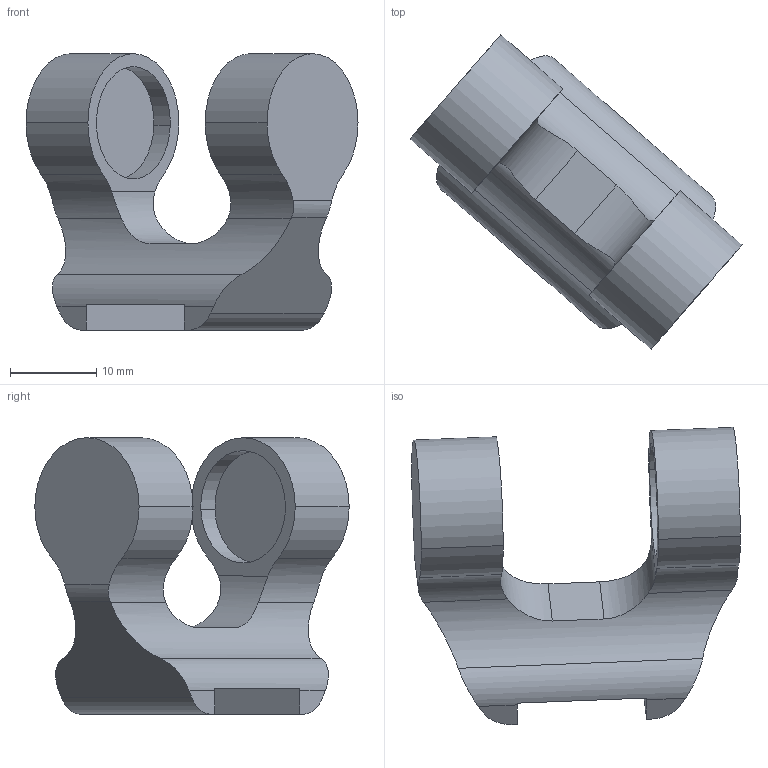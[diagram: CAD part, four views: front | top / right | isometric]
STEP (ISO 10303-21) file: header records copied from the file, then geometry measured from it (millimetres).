
FILE_DESCRIPTION (( 'STEP AP214' ), '1' );
FILE_NAME ('IRB365_1.5-1300_OmniCore_rev00_UNIVERSAL_JOINT_3_CAD.step', '2025-09-09T11:52:39', ( '' ), ( '' ), 'SwSTEP 2.0', 'SolidWorks 2024', '' );
FILE_SCHEMA (( 'AUTOMOTIVE_DESIGN' ));
Length unit declared in the file: millimetre
Products named in the file (1): IRB365_1.5-1300_OmniCore_rev00_UNIVERSAL_JOINT_3_CAD
Bounding box: 38.41 x 36.37 x 32 mm (x, y, z)
Volume: 7192.7 mm3; surface area: 3861.5 mm2
Topology: 1 solids, 1 shells, 43 faces, 114 edges, 76 vertices
Faces by surface type: cylinder 24, plane 19
Entity records: 1982 total; most frequent: CARTESIAN_POINT 422, ORIENTED_EDGE 228, DIRECTION 222, EDGE_CURVE 114, AXIS2_PLACEMENT_3D 84, VERTEX_POINT 76, LINE 54, VECTOR 54
